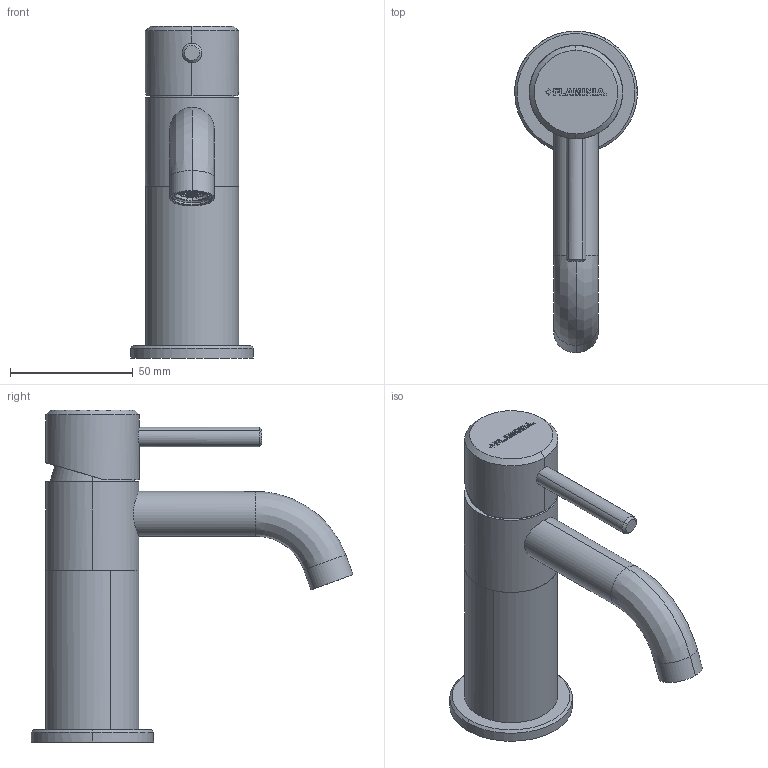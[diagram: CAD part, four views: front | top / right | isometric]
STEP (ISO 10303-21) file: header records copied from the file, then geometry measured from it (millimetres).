
FILE_DESCRIPTION(/* description */ (''),/* implementation_level */ '2;1');
FILE_NAME(/* name */ 'ST4070ACC',/* time_stamp */ '2024-02-26T10:58:18+01:00',/* author */ (''),/* organization */ (''),/* preprocessor_version */ 'ST-DEVELOPER v16.5',/* originating_system */ 'Rhino 7.36',/* authorisation */ '');
FILE_SCHEMA (('CONFIG_CONTROL_DESIGN'));
Length unit declared in the file: millimetre
Products named in the file (1): Document
Bounding box: 50 x 131.19 x 135.3 mm (x, y, z)
Volume: 33470.7 mm3; surface area: 31786 mm2
Topology: 2 solids, 65 shells, 405 faces, 1361 edges, 1023 vertices
Faces by surface type: plane 220, cylinder 134, bspline 51
Entity records: 16569 total; most frequent: CARTESIAN_POINT 8656, ORIENTED_EDGE 1980, EDGE_CURVE 1359, VERTEX_POINT 1022, B_SPLINE_CURVE_WITH_KNOTS 1014, EDGE_LOOP 423, ADVANCED_FACE 404, FACE_OUTER_BOUND 404
